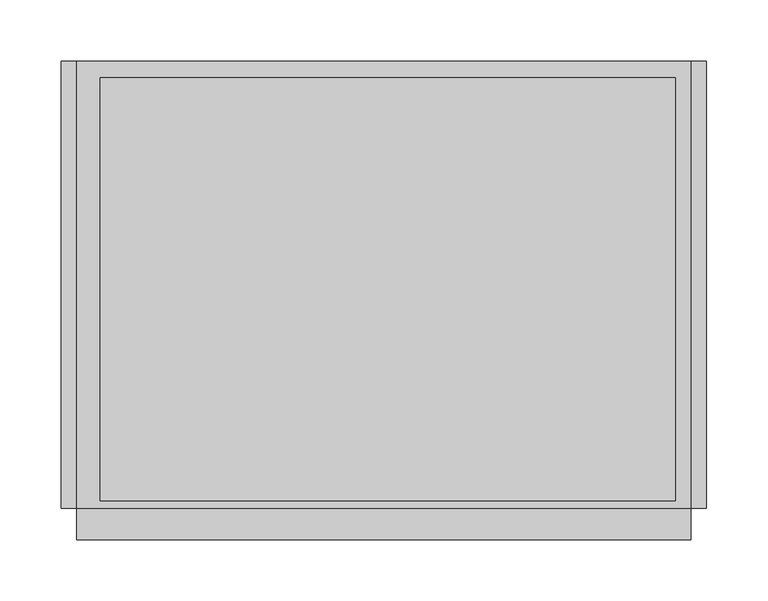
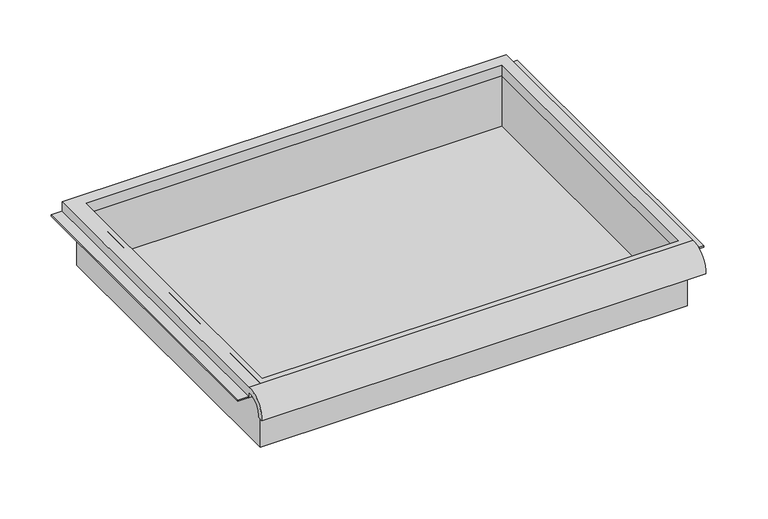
"""IFC4 building model written with IfcOpenShell, lengths in millimetres: furniture geometry."""

from ifc_helpers import new_model, si_unit, frame, origin, place, context, project, spatial, polyline, circle_curve, faceted_brep, source, transform, mapped, element, save
from ifc_brep_helpers import plane_surface, cylinder_surface, revolved_surface, advanced_brep


def furniture_4b96bb6f(model_context):
    return source(origin(), model_context, "Body", "SolidModel", [
        advanced_brep(
        [(263.7474999, -195.297482, 662.7824118), (263.7474999, -188.9125, 662.7824118), (263.7474999, -169.8625, 681.043885), (263.7474999, -169.8625, 674.6938846), (263.7474999, 195.2625, 674.6938846), (263.7474999, 195.2625, 687.393885), (263.7474999, -169.8625, 687.393885), (-237.9025001, -195.297482, 662.7824118), (-237.9025001, -169.8625, 687.393885), (-237.9025001, 195.2625, 687.393885), (-237.9025001, 195.2625, 674.6938846), (-237.9025001, -169.8625, 674.6938846), (-237.9025001, -169.8625, 681.043885), (-237.9025001, -188.9125, 662.7824118), (251.0474878, 181.9275, 674.6938846), (-218.8095642, 181.9275, 674.6938846), (-218.8095642, -163.5125, 674.6938846), (251.0474878, -163.5125, 674.6938846), (-218.8095642, 181.9275, 687.393885), (251.0474878, 181.9275, 687.393885), (251.0474878, -163.5125, 687.393885), (-218.8095642, -163.5125, 687.393885)],
        [
            (0, 1),
            (1, 2, circle_curve(frame((263.7474999, -172.3404634, 664.5618222), z_axis=(-1.0, 0.0, 0.0), x_axis=(0.0, 1.0, 0.0)), 16.6672942)),
            (2, 3),
            (3, 4),
            (4, 5),
            (5, 6),
            (6, 0, circle_curve(frame((263.7474999, -172.4601678, 664.6297122), z_axis=(1.0, 0.0, 0.0), x_axis=(0.0, 1.0, 0.0)), 22.9119061)),
            (7, 8, circle_curve(frame((-237.9025001, -172.4601678, 664.6297122), z_axis=(-1.0, 0.0, 0.0), x_axis=(0.0, 1.0, 0.0)), 22.9119061)),
            (8, 9),
            (9, 10),
            (10, 11),
            (11, 12),
            (12, 13, circle_curve(frame((-237.9025001, -172.3404634, 664.5618222), z_axis=(1.0, 0.0, 0.0), x_axis=(0.0, 1.0, 0.0)), 16.6672942)),
            (13, 7),
            (0, 7),
            (13, 1),
            (12, 2),
            (11, 3),
            (10, 4),
            (14, 15),
            (15, 16),
            (16, 17),
            (17, 14),
            (9, 5),
            (8, 6),
            (18, 19),
            (19, 20),
            (20, 21),
            (21, 18),
            (14, 19),
            (18, 15),
            (21, 16),
            (20, 17),
        ],
        [
            plane_surface(frame((263.7474999, -195.297482, 662.7824118), z_axis=(1.0, 0.0, 0.0), x_axis=(0.0, 1.0, 0.0))),
            plane_surface(frame((-237.9025001, -195.297482, 662.7824118), z_axis=(-1.0, 0.0, 0.0), x_axis=(0.0, -1.0, 0.0))),
            plane_surface(frame((263.7474999, -195.297482, 662.7824118), z_axis=(0.0, 0.0, -1.0), x_axis=(-1.0, 0.0, 0.0))),
            revolved_surface(polyline([(-237.9025001, -155.67316920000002, 664.5618222), (263.7474999, -155.67316920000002, 664.5618222)]), (-237.9025001, -172.3404634, 664.5618222), (-1.0, 0.0, 0.0)),
            plane_surface(frame((263.7474999, -169.8625, 681.043885), z_axis=(0.0, -1.0, 0.0), x_axis=(-1.0, 0.0, 0.0))),
            plane_surface(frame((263.7474999, -169.8625, 674.6938846), z_axis=(0.0, 0.0, -1.0), x_axis=(-1.0, 0.0, 0.0))),
            plane_surface(frame((263.7474999, 195.2625, 674.6938846), z_axis=(0.0, 1.0, 0.0), x_axis=(-1.0, 0.0, 0.0))),
            plane_surface(frame((263.7474999, 195.2625, 687.393885), z_axis=(0.0, 0.0, 1.0), x_axis=(-1.0, 0.0, 0.0))),
            cylinder_surface(frame((-237.9025001, -172.4601678, 664.6297122), z_axis=(1.0, 0.0, 0.0), x_axis=(0.0, 1.0, 0.0)), 22.9119061),
            plane_surface(frame((251.0474878, 181.9275, 687.393885), z_axis=(0.0, -1.0, 0.0), x_axis=(0.0, 0.0, -1.0))),
            plane_surface(frame((-218.8095642, 181.9275, 687.393885), z_axis=(1.0, 0.0, 0.0), x_axis=(0.0, 0.0, -1.0))),
            plane_surface(frame((-218.8095642, -163.5125, 687.393885), z_axis=(0.0, 1.0, 0.0), x_axis=(0.0, 0.0, -1.0))),
            plane_surface(frame((251.0474878, -163.5125, 687.393885), z_axis=(-1.0, 0.0, 0.0), x_axis=(0.0, 0.0, -1.0))),
        ],
        [
            (0, [[1, 2, 3, 4, 5, 6, 7]]),
            (1, [[8, 9, 10, 11, 12, 13, 14]]),
            (2, [[-1, 15, -14, 16]]),
            (3, [[-2, -16, -13, 17]]),
            (4, [[-3, -17, -12, 18]]),
            (5, [[-4, -18, -11, 19], [20, 21, 22, 23]]),
            (6, [[-5, -19, -10, 24]]),
            (7, [[-6, -24, -9, 25], [26, 27, 28, 29]]),
            (8, [[-7, -25, -8, -15]]),
            (9, [[30, -26, 31, -20]]),
            (10, [[-31, -29, 32, -21]]),
            (11, [[-32, -28, 33, -22]]),
            (12, [[-30, -23, -33, -27]]),
        ],
    ),
        faceted_brep([(-225.2025001, -169.8625, 611.193885), (257.3974878, -169.8625, 611.193885), (257.3974878, -169.8625, 687.393885), (-225.2025001, -169.8625, 687.393885), (-225.2025001, 188.9125, 611.193885), (-225.2025001, 188.9125, 687.393885), (257.3974878, 188.9125, 687.393885), (257.3974878, 188.9125, 611.193885), (-218.8095642, 181.9275, 687.393885), (251.0474878, 181.9275, 687.393885), (251.0474878, -163.5125, 687.393885), (-218.8095642, -163.5125, 687.393885), (251.0474878, 181.9275, 614.368885), (-218.8095642, 181.9275, 614.368885), (-218.8095642, -163.5125, 614.368885), (251.0474878, -163.5125, 614.368885)], [[[0, 1, 2, 3]], [[4, 5, 6, 7]], [[1, 0, 4, 7]], [[2, 1, 7, 6]], [[3, 2, 6, 5], [8, 9, 10, 11]], [[0, 3, 5, 4]], [[12, 13, 14, 15]], [[13, 12, 9, 8]], [[14, 13, 8, 11]], [[15, 14, 11, 10]], [[12, 15, 10, 9]]]),
        faceted_brep([(-250.6025001, 195.2625, 674.6938846), (-250.6025001, 195.2625, 676.2813846), (-231.5525001, 195.2625, 676.2813846), (-231.5525001, 195.2625, 674.6938846), (-250.6025001, -169.8625, 674.6938846), (-231.5525001, -169.8625, 674.6938846), (-231.5525001, -169.8625, 676.2813846), (-250.6025001, -169.8625, 676.2813846)], [[[0, 1, 2, 3]], [[4, 5, 6, 7]], [[1, 0, 4, 7]], [[2, 1, 7, 6]], [[3, 2, 6, 5]], [[0, 3, 5, 4]]]),
        faceted_brep([(276.4474999, 195.2625, 674.6938846), (263.7474999, 195.2625, 674.6938846), (263.7474999, 195.2625, 676.2813846), (276.4474999, 195.2625, 676.2813846), (276.4474999, -169.8625, 674.6938846), (276.4474999, -169.8625, 676.2813846), (263.7474999, -169.8625, 676.2813846), (263.7474999, -169.8625, 674.6938846)], [[[0, 1, 2, 3]], [[4, 5, 6, 7]], [[1, 0, 4, 7]], [[2, 1, 7, 6]], [[3, 2, 6, 5]], [[0, 3, 5, 4]]]),
    ])


if __name__ == "__main__":
    model = new_model("IFC4")
    model_context = context("Model", 3, world=origin())
    ifc_project = project(units=[si_unit("LENGTHUNIT", "METRE", prefix="MILLI")], contexts=[model_context])
    site = spatial("IfcSite", under=ifc_project)
    building = spatial("IfcBuilding", under=site)
    placement = place(None, origin())
    furniture_shape = furniture_4b96bb6f(model_context)
    element("IfcFurniture", 1, ObjectType="HermanMiller_Carts_CT501_Drawer : 3\"H x 15\"D x 20\"W", at=placement, inside=building, context=model_context, shape_type="MappedRepresentation", body=[
        mapped(furniture_shape, transform((0.0, 0.0, 0.0), x_axis=(1.0, 0.0, 0.0), y_axis=(0.0, 1.0, 0.0), z_axis=(0.0, 0.0, 1.0))),
    ])
    save(model, "model.ifc")
